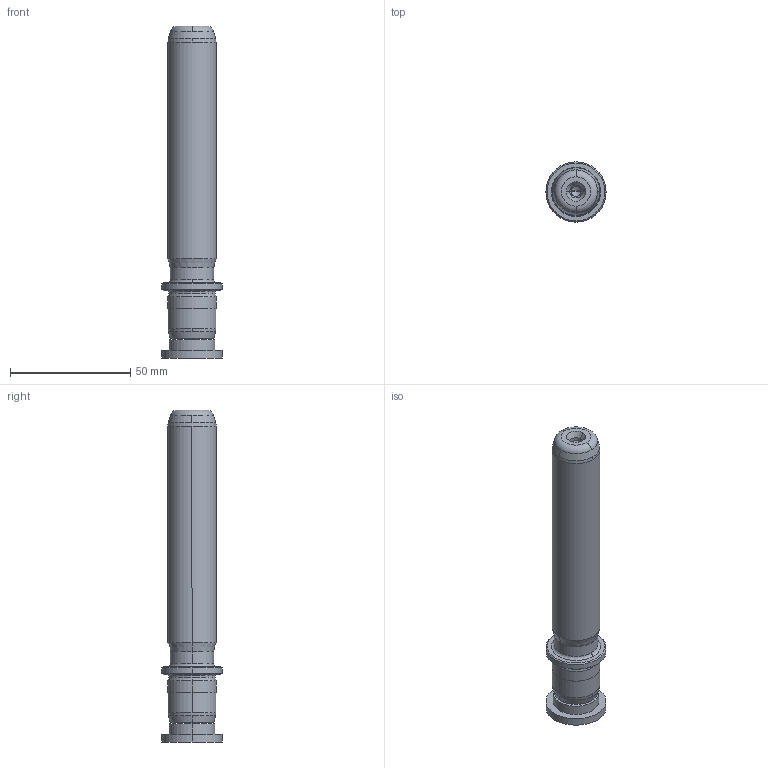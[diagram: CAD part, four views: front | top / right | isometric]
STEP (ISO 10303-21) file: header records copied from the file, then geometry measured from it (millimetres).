
FILE_DESCRIPTION((''),'2;1');
FILE_NAME('P22_020_110.stp','2009-02-02T11:06:20',(''),(''),'Mechanical Desktop 2009','Mechanical Desktop 2009',', , ');
FILE_SCHEMA(('CONFIG_CONTROL_DESIGN'));
Length unit declared in the file: millimetre
Products named in the file (2): Product; blmdl1
Assembly tree (1 placements, depth 2):
  Product
    blmdl1
Bounding box: 25 x 25 x 138 mm (x, y, z)
Volume: 42719.3 mm3; surface area: 11540.9 mm2
Topology: 3 solids, 3 shells, 99 faces, 237 edges, 149 vertices
Faces by surface type: cylinder 32, cone 28, plane 19, bspline 14, torus 6
Entity records: 3579 total; most frequent: CARTESIAN_POINT 1099, DIRECTION 562, ORIENTED_EDGE 466, AXIS2_PLACEMENT_3D 242, EDGE_CURVE 233, CIRCLE 155, VERTEX_POINT 149, EDGE_LOOP 110
